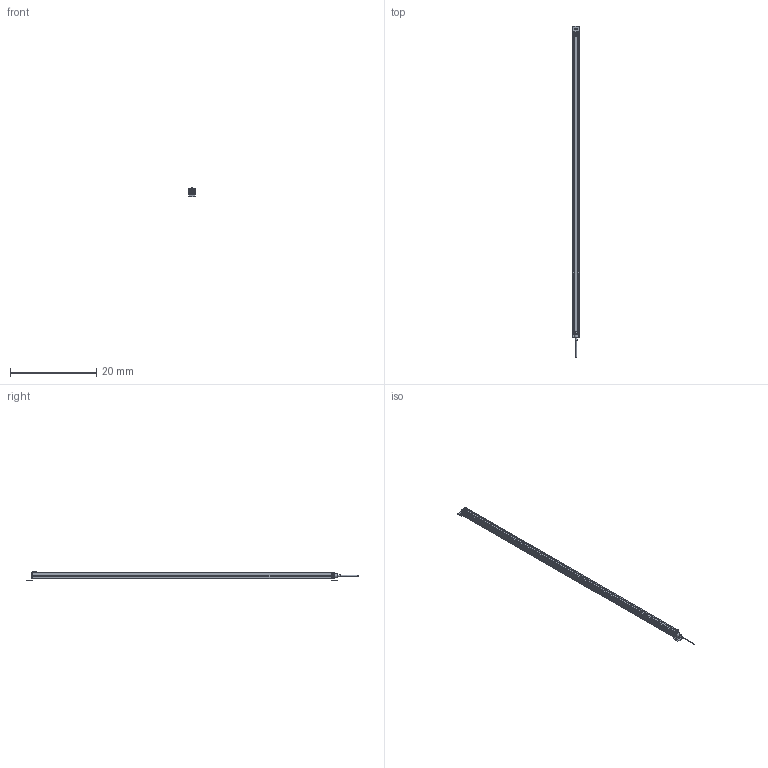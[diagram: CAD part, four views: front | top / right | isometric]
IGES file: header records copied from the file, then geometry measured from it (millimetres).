
Start section:  Autodesk DirectConnect version 7.0.27.0 ---- IGES version 5.3
Global section: file name: C:\ACADFILES\MG_PYLONS\CUSTOMER_FILES\MG-68-PYLON_3D_L.iges; native system: Autodesk DirectConnect 7.0.27.0; preprocessor: 7.0.27.0; author: ENGINEERMAIN; organization: Unknown; date: 20150810.143154; units: millimetre
Bounding box: 1.46 x 76.85 x 2.11 mm (x, y, z)
Surface area: 1031.7 mm2 (no closed solid volume)
Topology: 0 solids, 0 shells, 630 faces, 3369 edges, 3383 vertices
Faces by surface type: bspline 630
